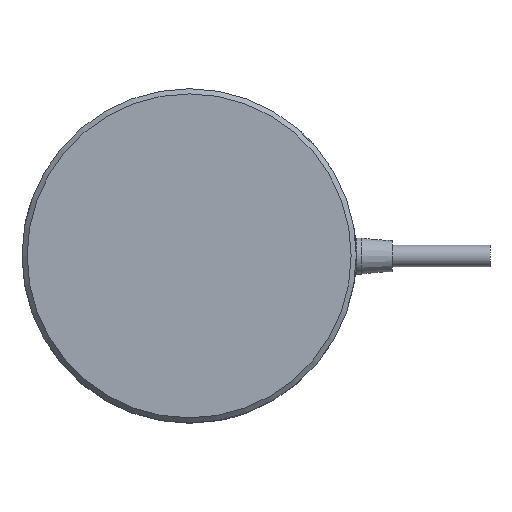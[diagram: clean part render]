
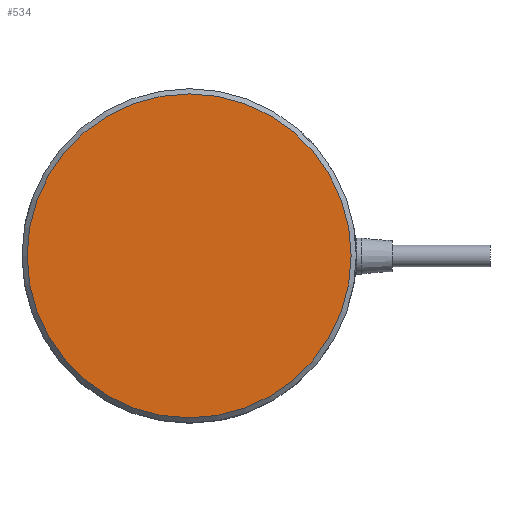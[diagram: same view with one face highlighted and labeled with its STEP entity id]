
A CAD part, top view. The second image highlights one B-rep face of the part: STEP entity #534.
In plain terms, the highlighted planar face has unit normal (0, 0, 1).
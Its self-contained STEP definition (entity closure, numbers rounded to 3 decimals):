
#534=ADVANCED_FACE('',(#931),#932,.F.);
#931=FACE_OUTER_BOUND('',#1456,.T.);
#932=PLANE('',#1457);
#1456=EDGE_LOOP('',(#2003));
#1457=AXIS2_PLACEMENT_3D('',#2004,#2005,#2006);
#2003=ORIENTED_EDGE('',*,*,#2419,.T.);
#2004=CARTESIAN_POINT('',(0.,-16.25,30.0));
#2005=DIRECTION('',(0.,0.,-1.0));
#2006=DIRECTION('',(0.,1.0,0.));
#2419=EDGE_CURVE('',#2714,#2714,#2715,.F.);
#2714=VERTEX_POINT('',#3194);
#2715=CIRCLE('',#3195,31.5);
#3194=CARTESIAN_POINT('',(0.,31.5,30.0));
#3195=AXIS2_PLACEMENT_3D('',#4115,#4116,#4117);
#4115=CARTESIAN_POINT('',(0.,0.,30.0));
#4116=DIRECTION('',(0.,0.,-1.0));
#4117=DIRECTION('',(0.,1.0,0.));
